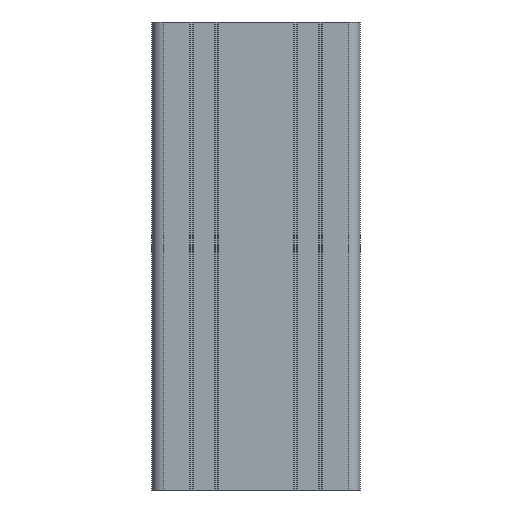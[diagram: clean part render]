
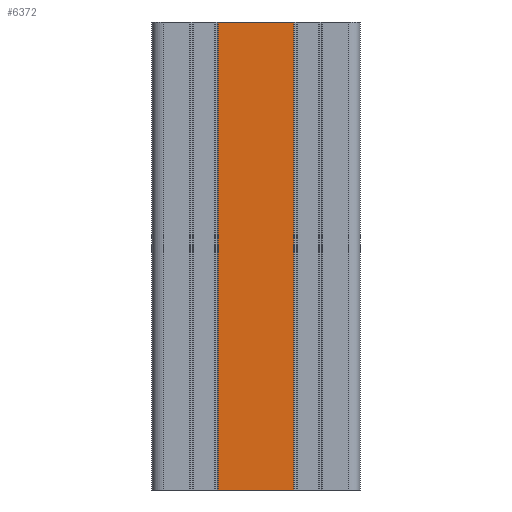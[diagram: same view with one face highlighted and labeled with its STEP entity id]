
A CAD part, front view. The second image highlights one B-rep face of the part: STEP entity #6372.
In plain terms, the highlighted planar face has unit normal (0, -1, 0).
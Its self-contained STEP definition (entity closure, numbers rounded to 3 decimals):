
#6314=CARTESIAN_POINT('',(256.999,56.452,180.0));
#6315=VERTEX_POINT('',#6314);
#6323=CARTESIAN_POINT('',(256.999,56.452,0.0));
#6324=VERTEX_POINT('',#6323);
#6325=CARTESIAN_POINT('',(256.999,56.452,0.0));
#6326=DIRECTION('',(0.0,0.0,1.0));
#6327=VECTOR('',#6326,180.0);
#6328=LINE('',#6325,#6327);
#6329=EDGE_CURVE('',#6324,#6315,#6328,.T.);
#6342=CARTESIAN_POINT('',(256.999,56.452,0.0));
#6343=DIRECTION('',(0.0,-1.0,0.0));
#6344=DIRECTION('',(0.0,0.0,-1.0));
#6345=AXIS2_PLACEMENT_3D('',#6342,#6343,#6344);
#6346=PLANE('',#6345);
#6347=CARTESIAN_POINT('',(227.799,56.452,180.0));
#6348=VERTEX_POINT('',#6347);
#6349=CARTESIAN_POINT('',(256.999,56.452,180.0));
#6350=DIRECTION('',(-1.0,0.0,0.0));
#6351=VECTOR('',#6350,29.2);
#6352=LINE('',#6349,#6351);
#6353=EDGE_CURVE('',#6315,#6348,#6352,.T.);
#6354=ORIENTED_EDGE('',*,*,#6353,.T.);
#6355=CARTESIAN_POINT('',(227.799,56.452,0.0));
#6356=VERTEX_POINT('',#6355);
#6357=CARTESIAN_POINT('',(227.799,56.452,0.0));
#6358=DIRECTION('',(0.0,0.0,1.0));
#6359=VECTOR('',#6358,180.0);
#6360=LINE('',#6357,#6359);
#6361=EDGE_CURVE('',#6356,#6348,#6360,.T.);
#6362=ORIENTED_EDGE('',*,*,#6361,.F.);
#6363=CARTESIAN_POINT('',(227.799,56.452,0.0));
#6364=DIRECTION('',(1.0,0.0,0.0));
#6365=VECTOR('',#6364,29.2);
#6366=LINE('',#6363,#6365);
#6367=EDGE_CURVE('',#6356,#6324,#6366,.T.);
#6368=ORIENTED_EDGE('',*,*,#6367,.T.);
#6369=ORIENTED_EDGE('',*,*,#6329,.T.);
#6370=EDGE_LOOP('',(#6354,#6362,#6368,#6369));
#6371=FACE_OUTER_BOUND('',#6370,.T.);
#6372=ADVANCED_FACE('',(#6371),#6346,.T.);
